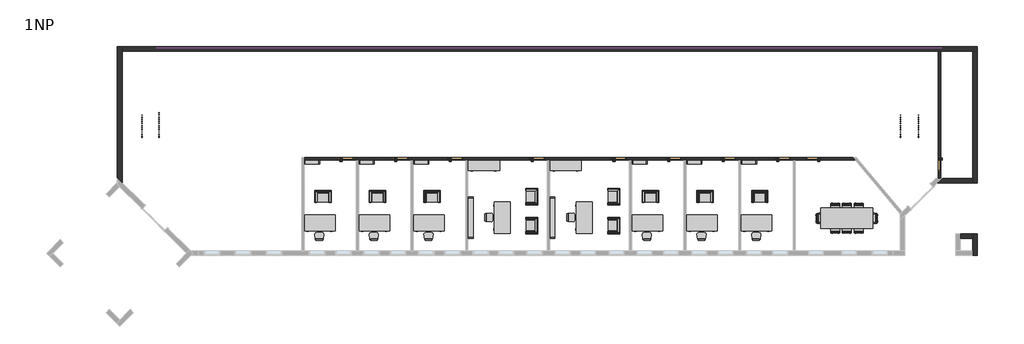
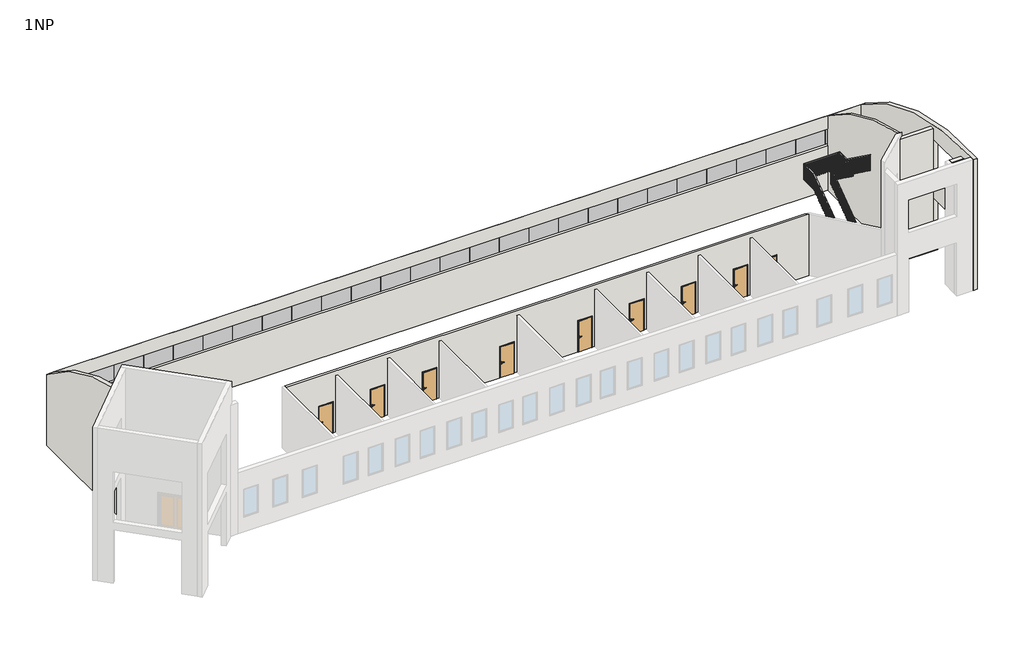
# One storey, part 2 of 2: 45 furniture elements, 26 plates, 10 doors, 7 walls, 4 railings.
"""IFC4 building model written with IfcOpenShell, lengths in millimetres."""

from ifc_helpers import new_model, si_unit, point, frame, frame_2d, origin, place, context, project, spatial, polyline, circle_curve, ellipse_curve, trimmed, segment, composite_curve, outline, extrude, faceted_brep, transform, mapped, element, save
from ifc_brep_helpers import plane_surface, cylinder_surface, advanced_brep
from components import door_900_x_2000_4c66a93d, door_900_x_2000_c64c60ef, furniture_b7f3823b, furniture_3b363349, furniture_ccc35c8f, furniture_2764bdef, furniture_0915_x_0254_x_1830mm_1d5e155e, furniture_1200_x_3050mm_930714f4, furniture_1800_x_900mm_2fcb012d, furniture_1830_x_0610mm_1080a9db, furniture_2440_x_0305_x_2134mm_59c1a9e4, system_panel_glazed_e7f7cd54, system_panel_glazed_2bdfee25, railing_1100mm_7da75a1e, railing_1100mm_276dff7a, railing_1100mm_749a05fc, railing_1100mm_07c990a1

model = new_model("IFC4")

# Units and contexts
model_context = context("Model", 3, world=origin())
ifc_project = project(units=[si_unit("LENGTHUNIT", "METRE", prefix="MILLI")], contexts=[model_context])

# Site, building, storey
site = spatial("IfcSite", under=ifc_project)
building = spatial("IfcBuilding", under=site)
storey = spatial("IfcBuildingStorey", under=building, Name="1NP", Elevation=0.0)

# Doors
placement = place(None, origin())
door_900_x_2000_shape = door_900_x_2000_4c66a93d(model_context)
element("IfcDoor", 1, ObjectType="Jednokridle oboustrana zaruben : 900 x 2000", at=placement, inside=storey, context=model_context, shape_type="MappedRepresentation", body=[
    mapped(door_900_x_2000_shape, transform((36489.1755273, 502.5551306, 0.0), x_axis=(0.0, 1.0, 0.0), y_axis=(-1.0, 0.0, 0.0), z_axis=(0.0, 0.0, 1.0))),
])
element("IfcDoor", 2, ObjectType="Jednokridle oboustrana zaruben : 900 x 2000", at=placement, inside=storey, context=model_context, shape_type="MappedRepresentation", body=[
    mapped(door_900_x_2000_shape, transform((29135.9255273, 791.5551306, 0.0), x_axis=(1.0, 0.0, 0.0), y_axis=(0.0, 1.0, 0.0), z_axis=(0.0, 0.0, 1.0))),
])
door_900_x_2000_2_shape = door_900_x_2000_c64c60ef(model_context)
element("IfcDoor", 3, ObjectType="Jednokridle oboustrana zaruben : 900 x 2000", at=placement, inside=storey, context=model_context, shape_type="MappedRepresentation", body=[
    mapped(door_900_x_2000_2_shape, transform((1699.9255273, 791.5551306, 0.0), x_axis=(-1.0, 0.0, 0.0), y_axis=(0.0, -1.0, 0.0), z_axis=(0.0, 0.0, 1.0))),
])
element("IfcDoor", 4, ObjectType="Jednokridle oboustrana zaruben : 900 x 2000", at=placement, inside=storey, context=model_context, shape_type="MappedRepresentation", body=[
    mapped(door_900_x_2000_2_shape, transform((4899.9255273, 791.5551306, 0.0), x_axis=(-1.0, 0.0, 0.0), y_axis=(0.0, -1.0, 0.0), z_axis=(0.0, 0.0, 1.0))),
])
element("IfcDoor", 5, ObjectType="Jednokridle oboustrana zaruben : 900 x 2000", at=placement, inside=storey, context=model_context, shape_type="MappedRepresentation", body=[
    mapped(door_900_x_2000_2_shape, transform((8099.9255273, 791.5551306, 0.0), x_axis=(-1.0, 0.0, 0.0), y_axis=(0.0, -1.0, 0.0), z_axis=(0.0, 0.0, 1.0))),
])
element("IfcDoor", 6, ObjectType="Jednokridle oboustrana zaruben : 900 x 2000", at=placement, inside=storey, context=model_context, shape_type="MappedRepresentation", body=[
    mapped(door_900_x_2000_2_shape, transform((12899.9255273, 791.5551306, 0.0), x_axis=(-1.0, 0.0, 0.0), y_axis=(0.0, -1.0, 0.0), z_axis=(0.0, 0.0, 1.0))),
])
element("IfcDoor", 7, ObjectType="Jednokridle oboustrana zaruben : 900 x 2000", at=placement, inside=storey, context=model_context, shape_type="MappedRepresentation", body=[
    mapped(door_900_x_2000_2_shape, transform((20899.9255273, 791.5551306, 0.0), x_axis=(-1.0, 0.0, 0.0), y_axis=(0.0, -1.0, 0.0), z_axis=(0.0, 0.0, 1.0))),
])
element("IfcDoor", 8, ObjectType="Jednokridle oboustrana zaruben : 900 x 2000", at=placement, inside=storey, context=model_context, shape_type="MappedRepresentation", body=[
    mapped(door_900_x_2000_2_shape, transform((24099.9255273, 791.5551306, 0.0), x_axis=(-1.0, 0.0, 0.0), y_axis=(0.0, -1.0, 0.0), z_axis=(0.0, 0.0, 1.0))),
])
element("IfcDoor", 9, ObjectType="Jednokridle oboustrana zaruben : 900 x 2000", at=placement, inside=storey, context=model_context, shape_type="MappedRepresentation", body=[
    mapped(door_900_x_2000_2_shape, transform((27299.9255273, 791.5551306, 0.0), x_axis=(-1.0, 0.0, 0.0), y_axis=(0.0, -1.0, 0.0), z_axis=(0.0, 0.0, 1.0))),
])
element("IfcDoor", 10, ObjectType="Jednokridle oboustrana zaruben : 900 x 2000", at=placement, inside=storey, context=model_context, shape_type="MappedRepresentation", body=[
    mapped(door_900_x_2000_2_shape, transform((17699.9255273, 791.5551306, 0.0), x_axis=(-1.0, 0.0, 0.0), y_axis=(0.0, -1.0, 0.0), z_axis=(0.0, 0.0, 1.0))),
])

# Furniture
furniture_shape = furniture_b7f3823b(model_context)
element("IfcFurniture", 11, ObjectType="Prac.zidleH : Prac.zidleHranata", at=placement, inside=storey, context=model_context, shape_type="MappedRepresentation", body=[
    mapped(furniture_shape, transform((31897.6750188, -2087.6223918, 0.0), x_axis=(-1.0, 0.0, 0.0), y_axis=(0.0, -1.0, 0.0), z_axis=(0.0, 0.0, 1.0))),
])
element("IfcFurniture", 12, ObjectType="Prac.zidleH : Prac.zidleHranata", at=placement, inside=storey, context=model_context, shape_type="MappedRepresentation", body=[
    mapped(furniture_shape, transform((31615.6933794, -3325.5141951, 0.0), x_axis=(1.0, 0.0, 0.0), y_axis=(0.0, 1.0, 0.0), z_axis=(0.0, 0.0, 1.0))),
])
element("IfcFurniture", 13, ObjectType="Prac.zidleH : Prac.zidleHranata", at=placement, inside=storey, context=model_context, shape_type="MappedRepresentation", body=[
    mapped(furniture_shape, transform((30527.9250188, -2087.6223918, 0.0), x_axis=(-1.0, 0.0, 0.0), y_axis=(0.0, -1.0, 0.0), z_axis=(0.0, 0.0, 1.0))),
])
element("IfcFurniture", 14, ObjectType="Prac.zidleH : Prac.zidleHranata", at=placement, inside=storey, context=model_context, shape_type="MappedRepresentation", body=[
    mapped(furniture_shape, transform((30245.9433794, -3325.5141951, 0.0), x_axis=(1.0, 0.0, 0.0), y_axis=(0.0, 1.0, 0.0), z_axis=(0.0, 0.0, 1.0))),
])
element("IfcFurniture", 15, ObjectType="Prac.zidleH : Prac.zidleHranata", at=placement, inside=storey, context=model_context, shape_type="MappedRepresentation", body=[
    mapped(furniture_shape, transform((31212.8000188, -2087.6223918, 0.0), x_axis=(-1.0, 0.0, 0.0), y_axis=(0.0, -1.0, 0.0), z_axis=(0.0, 0.0, 1.0))),
])
element("IfcFurniture", 16, ObjectType="Prac.zidleH : Prac.zidleHranata", at=placement, inside=storey, context=model_context, shape_type="MappedRepresentation", body=[
    mapped(furniture_shape, transform((30930.8183794, -3325.5141951, 0.0), x_axis=(1.0, 0.0, 0.0), y_axis=(0.0, 1.0, 0.0), z_axis=(0.0, 0.0, 1.0))),
])
furniture_2_shape = furniture_3b363349(model_context)
element("IfcFurniture", 17, ObjectType="Prac.zidleP : Prac.zidlePodrucky", at=placement, inside=storey, context=model_context, shape_type="MappedRepresentation", body=[
    mapped(furniture_2_shape, transform((32615.6301008, -2847.5591131, 0.0), x_axis=(0.0, 1.0, 0.0), y_axis=(-1.0, 0.0, 0.0), z_axis=(0.0, 0.0, 1.0))),
])
element("IfcFurniture", 18, ObjectType="Prac.zidleP : Prac.zidlePodrucky", at=placement, inside=storey, context=model_context, shape_type="MappedRepresentation", body=[
    mapped(furniture_2_shape, transform((29527.7382975, -2565.5774738, 0.0), x_axis=(0.0, -1.0000000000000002, 0.0), y_axis=(1.0000000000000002, 0.0, 0.0), z_axis=(0.0, 0.0, 1.0))),
])
furniture_3_shape = furniture_ccc35c8f(model_context)
element("IfcFurniture", 19, ObjectType="Prac.zidle : prac.zidleZaobl", at=placement, inside=storey, context=model_context, shape_type="MappedRepresentation", body=[
    mapped(furniture_3_shape, transform((149.9255273, -3938.9177984, 0.0), x_axis=(1.0, 0.0, 0.0), y_axis=(0.0, 1.0, 0.0), z_axis=(0.0, 0.0, 1.0))),
])
element("IfcFurniture", 20, ObjectType="Prac.zidle : prac.zidleZaobl", at=placement, inside=storey, context=model_context, shape_type="MappedRepresentation", body=[
    mapped(furniture_3_shape, transform((3349.9255273, -3938.9177984, 0.0), x_axis=(1.0, 0.0, 0.0), y_axis=(0.0, 1.0, 0.0), z_axis=(0.0, 0.0, 1.0))),
])
element("IfcFurniture", 21, ObjectType="Prac.zidle : prac.zidleZaobl", at=placement, inside=storey, context=model_context, shape_type="MappedRepresentation", body=[
    mapped(furniture_3_shape, transform((6549.9255273, -3938.9177984, 0.0), x_axis=(1.0, 0.0, 0.0), y_axis=(0.0, 1.0, 0.0), z_axis=(0.0, 0.0, 1.0))),
])
element("IfcFurniture", 22, ObjectType="Prac.zidle : prac.zidleZaobl", at=placement, inside=storey, context=model_context, shape_type="MappedRepresentation", body=[
    mapped(furniture_3_shape, transform((9920.3097542, -2661.8601839, 0.0), x_axis=(0.0, -1.0, 0.0), y_axis=(1.0, 0.0, 0.0), z_axis=(0.0, 0.0, 1.0))),
])
element("IfcFurniture", 23, ObjectType="Prac.zidle : prac.zidleZaobl", at=placement, inside=storey, context=model_context, shape_type="MappedRepresentation", body=[
    mapped(furniture_3_shape, transform((19349.9255273, -3938.9177984, 0.0), x_axis=(1.0, 0.0, 0.0), y_axis=(0.0, 1.0, 0.0), z_axis=(0.0, 0.0, 1.0))),
])
element("IfcFurniture", 24, ObjectType="Prac.zidle : prac.zidleZaobl", at=placement, inside=storey, context=model_context, shape_type="MappedRepresentation", body=[
    mapped(furniture_3_shape, transform((22549.9255273, -3938.9177984, 0.0), x_axis=(1.0, 0.0, 0.0), y_axis=(0.0, 1.0, 0.0), z_axis=(0.0, 0.0, 1.0))),
])
element("IfcFurniture", 25, ObjectType="Prac.zidle : prac.zidleZaobl", at=placement, inside=storey, context=model_context, shape_type="MappedRepresentation", body=[
    mapped(furniture_3_shape, transform((25749.9255273, -3938.9177984, 0.0), x_axis=(1.0, 0.0, 0.0), y_axis=(0.0, 1.0, 0.0), z_axis=(0.0, 0.0, 1.0))),
])
element("IfcFurniture", 26, ObjectType="Prac.zidle : prac.zidleZaobl", at=placement, inside=storey, context=model_context, shape_type="MappedRepresentation", body=[
    mapped(furniture_3_shape, transform((14720.3097542, -2661.8601839, 0.0), x_axis=(0.0, -1.0, 0.0), y_axis=(1.0, 0.0, 0.0), z_axis=(0.0, 0.0, 1.0))),
])
furniture_4_shape = furniture_2764bdef(model_context)
element("IfcFurniture", 27, ObjectType="KresilkoCorbusier : KresilkoCorbusier", at=placement, inside=storey, context=model_context, shape_type="MappedRepresentation", body=[
    mapped(furniture_4_shape, transform((2989.3517568, -1887.3719186, 0.0), x_axis=(1.0, 0.0, 0.0), y_axis=(0.0, 1.0, 0.0), z_axis=(0.0, 0.0, 1.0))),
])
element("IfcFurniture", 28, ObjectType="KresilkoCorbusier : KresilkoCorbusier", at=placement, inside=storey, context=model_context, shape_type="MappedRepresentation", body=[
    mapped(furniture_4_shape, transform((-210.6482432, -1887.3719186, 0.0), x_axis=(1.0, 0.0, 0.0), y_axis=(0.0, 1.0, 0.0), z_axis=(0.0, 0.0, 1.0))),
])
element("IfcFurniture", 29, ObjectType="KresilkoCorbusier : KresilkoCorbusier", at=placement, inside=storey, context=model_context, shape_type="MappedRepresentation", body=[
    mapped(furniture_4_shape, transform((6189.3517568, -1887.3719186, 0.0), x_axis=(1.0, 0.0, 0.0), y_axis=(0.0, 1.0, 0.0), z_axis=(0.0, 0.0, 1.0))),
])
element("IfcFurniture", 30, ObjectType="KresilkoCorbusier : KresilkoCorbusier", at=placement, inside=storey, context=model_context, shape_type="MappedRepresentation", body=[
    mapped(furniture_4_shape, transform((12135.7353038, -861.9944392, 0.0), x_axis=(0.0, -1.0, 0.0), y_axis=(1.0, 0.0, 0.0), z_axis=(0.0, 0.0, 1.0))),
])
element("IfcFurniture", 31, ObjectType="KresilkoCorbusier : KresilkoCorbusier", at=placement, inside=storey, context=model_context, shape_type="MappedRepresentation", body=[
    mapped(furniture_4_shape, transform((18989.3517568, -1887.3719186, 0.0), x_axis=(1.0, 0.0, 0.0), y_axis=(0.0, 1.0, 0.0), z_axis=(0.0, 0.0, 1.0))),
])
element("IfcFurniture", 32, ObjectType="KresilkoCorbusier : KresilkoCorbusier", at=placement, inside=storey, context=model_context, shape_type="MappedRepresentation", body=[
    mapped(furniture_4_shape, transform((22189.3517568, -1887.3719186, 0.0), x_axis=(1.0, 0.0, 0.0), y_axis=(0.0, 1.0, 0.0), z_axis=(0.0, 0.0, 1.0))),
])
element("IfcFurniture", 33, ObjectType="KresilkoCorbusier : KresilkoCorbusier", at=placement, inside=storey, context=model_context, shape_type="MappedRepresentation", body=[
    mapped(furniture_4_shape, transform((25389.3517568, -1887.3719186, 0.0), x_axis=(1.0, 0.0, 0.0), y_axis=(0.0, 1.0, 0.0), z_axis=(0.0, 0.0, 1.0))),
])
element("IfcFurniture", 34, ObjectType="KresilkoCorbusier : KresilkoCorbusier", at=placement, inside=storey, context=model_context, shape_type="MappedRepresentation", body=[
    mapped(furniture_4_shape, transform((12135.7353038, -2557.1944392, 0.0), x_axis=(0.0, -1.0, 0.0), y_axis=(1.0, 0.0, 0.0), z_axis=(0.0, 0.0, 1.0))),
])
element("IfcFurniture", 35, ObjectType="KresilkoCorbusier : KresilkoCorbusier", at=placement, inside=storey, context=model_context, shape_type="MappedRepresentation", body=[
    mapped(furniture_4_shape, transform((16935.7353038, -861.9944392, 0.0), x_axis=(0.0, -1.0, 0.0), y_axis=(1.0, 0.0, 0.0), z_axis=(0.0, 0.0, 1.0))),
])
element("IfcFurniture", 36, ObjectType="KresilkoCorbusier : KresilkoCorbusier", at=placement, inside=storey, context=model_context, shape_type="MappedRepresentation", body=[
    mapped(furniture_4_shape, transform((16935.7353038, -2557.1944392, 0.0), x_axis=(0.0, -1.0, 0.0), y_axis=(1.0, 0.0, 0.0), z_axis=(0.0, 0.0, 1.0))),
])
furniture_0915_x_0254_x_1830mm_shape = furniture_0915_x_0254_x_1830mm_1d5e155e(model_context)
element("IfcFurniture", 37, ObjectType="PolicovaSkrin : 0915 x 0254 x 1830mm", at=placement, inside=storey, context=model_context, shape_type="MappedRepresentation", body=[
    mapped(furniture_0915_x_0254_x_1830mm_shape, transform((-284.0744727, 900.1051306, 0.0), x_axis=(1.0, 0.0, 0.0), y_axis=(0.0, 1.0, 0.0), z_axis=(0.0, 0.0, 1.0))),
])
element("IfcFurniture", 38, ObjectType="PolicovaSkrin : 0915 x 0254 x 1830mm", at=placement, inside=storey, context=model_context, shape_type="MappedRepresentation", body=[
    mapped(furniture_0915_x_0254_x_1830mm_shape, transform((2915.9255273, 900.1051306, 0.0), x_axis=(1.0, 0.0, 0.0), y_axis=(0.0, 1.0, 0.0), z_axis=(0.0, 0.0, 1.0))),
])
element("IfcFurniture", 39, ObjectType="PolicovaSkrin : 0915 x 0254 x 1830mm", at=placement, inside=storey, context=model_context, shape_type="MappedRepresentation", body=[
    mapped(furniture_0915_x_0254_x_1830mm_shape, transform((6115.9255273, 900.1051306, 0.0), x_axis=(1.0, 0.0, 0.0), y_axis=(0.0, 1.0, 0.0), z_axis=(0.0, 0.0, 1.0))),
])
element("IfcFurniture", 40, ObjectType="PolicovaSkrin : 0915 x 0254 x 1830mm", at=placement, inside=storey, context=model_context, shape_type="MappedRepresentation", body=[
    mapped(furniture_0915_x_0254_x_1830mm_shape, transform((18915.9255273, 900.1051306, 0.0), x_axis=(1.0, 0.0, 0.0), y_axis=(0.0, 1.0, 0.0), z_axis=(0.0, 0.0, 1.0))),
])
element("IfcFurniture", 41, ObjectType="PolicovaSkrin : 0915 x 0254 x 1830mm", at=placement, inside=storey, context=model_context, shape_type="MappedRepresentation", body=[
    mapped(furniture_0915_x_0254_x_1830mm_shape, transform((22115.9255273, 900.1051306, 0.0), x_axis=(1.0, 0.0, 0.0), y_axis=(0.0, 1.0, 0.0), z_axis=(0.0, 0.0, 1.0))),
])
element("IfcFurniture", 42, ObjectType="PolicovaSkrin : 0915 x 0254 x 1830mm", at=placement, inside=storey, context=model_context, shape_type="MappedRepresentation", body=[
    mapped(furniture_0915_x_0254_x_1830mm_shape, transform((25315.9255273, 900.1051306, 0.0), x_axis=(1.0, 0.0, 0.0), y_axis=(0.0, 1.0, 0.0), z_axis=(0.0, 0.0, 1.0))),
])
furniture_1200_x_3050mm_shape = furniture_1200_x_3050mm_930714f4(model_context)
element("IfcFurniture", 43, ObjectType="Konf.stul : 1200 x 3050mm", at=placement, inside=storey, context=model_context, shape_type="MappedRepresentation", body=[
    mapped(furniture_1200_x_3050mm_shape, transform((31071.6841991, -2706.5682935, 0.0), x_axis=(-1.0, 0.0, 0.0), y_axis=(0.0, -1.0, 0.0), z_axis=(0.0, 0.0, 1.0))),
])
furniture_1800_x_900mm_shape = furniture_1800_x_900mm_2fcb012d(model_context)
element("IfcFurniture", 44, ObjectType="Prac.stul : 1800 x 900mm", at=placement, inside=storey, context=model_context, shape_type="MappedRepresentation", body=[
    mapped(furniture_1800_x_900mm_shape, transform((1058.4255273, -2534.8677984, 0.0), x_axis=(-1.0, 0.0, 0.0), y_axis=(0.0, -1.0, 0.0), z_axis=(0.0, 0.0, 1.0))),
])
element("IfcFurniture", 45, ObjectType="Prac.stul : 1800 x 900mm", at=placement, inside=storey, context=model_context, shape_type="MappedRepresentation", body=[
    mapped(furniture_1800_x_900mm_shape, transform((4258.4255273, -2534.8677984, 0.0), x_axis=(-1.0, 0.0, 0.0), y_axis=(0.0, -1.0, 0.0), z_axis=(0.0, 0.0, 1.0))),
])
element("IfcFurniture", 46, ObjectType="Prac.stul : 1800 x 900mm", at=placement, inside=storey, context=model_context, shape_type="MappedRepresentation", body=[
    mapped(furniture_1800_x_900mm_shape, transform((7458.4255273, -2534.8677984, 0.0), x_axis=(-1.0, 0.0, 0.0), y_axis=(0.0, -1.0, 0.0), z_axis=(0.0, 0.0, 1.0))),
])
element("IfcFurniture", 47, ObjectType="Prac.stul : 1800 x 900mm", at=placement, inside=storey, context=model_context, shape_type="MappedRepresentation", body=[
    mapped(furniture_1800_x_900mm_shape, transform((11324.3597542, -3570.3601839, 0.0), x_axis=(0.0, 1.0, 0.0), y_axis=(-1.0, 0.0, 0.0), z_axis=(0.0, 0.0, 1.0))),
])
element("IfcFurniture", 48, ObjectType="Prac.stul : 1800 x 900mm", at=placement, inside=storey, context=model_context, shape_type="MappedRepresentation", body=[
    mapped(furniture_1800_x_900mm_shape, transform((20258.4255273, -2534.8677984, 0.0), x_axis=(-1.0, 0.0, 0.0), y_axis=(0.0, -1.0, 0.0), z_axis=(0.0, 0.0, 1.0))),
])
element("IfcFurniture", 49, ObjectType="Prac.stul : 1800 x 900mm", at=placement, inside=storey, context=model_context, shape_type="MappedRepresentation", body=[
    mapped(furniture_1800_x_900mm_shape, transform((23458.4255273, -2534.8677984, 0.0), x_axis=(-1.0, 0.0, 0.0), y_axis=(0.0, -1.0, 0.0), z_axis=(0.0, 0.0, 1.0))),
])
element("IfcFurniture", 50, ObjectType="Prac.stul : 1800 x 900mm", at=placement, inside=storey, context=model_context, shape_type="MappedRepresentation", body=[
    mapped(furniture_1800_x_900mm_shape, transform((26658.4255273, -2534.8677984, 0.0), x_axis=(-1.0, 0.0, 0.0), y_axis=(0.0, -1.0, 0.0), z_axis=(0.0, 0.0, 1.0))),
])
element("IfcFurniture", 51, ObjectType="Prac.stul : 1800 x 900mm", at=placement, inside=storey, context=model_context, shape_type="MappedRepresentation", body=[
    mapped(furniture_1800_x_900mm_shape, transform((16124.3597542, -3570.3601839, 0.0), x_axis=(0.0, 1.0, 0.0), y_axis=(-1.0, 0.0, 0.0), z_axis=(0.0, 0.0, 1.0))),
])
furniture_1830_x_0610mm_shape = furniture_1830_x_0610mm_1080a9db(model_context)
element("IfcFurniture", 52, ObjectType="SkrinNizka : 1830 x 0610mm", at=placement, inside=storey, context=model_context, shape_type="MappedRepresentation", body=[
    mapped(furniture_1830_x_0610mm_shape, transform((9713.881265, 412.7248027, 0.0), x_axis=(1.0, 0.0, 0.0), y_axis=(0.0, 1.0, 0.0), z_axis=(0.0, 0.0, 1.0))),
])
element("IfcFurniture", 53, ObjectType="SkrinNizka : 1830 x 0610mm", at=placement, inside=storey, context=model_context, shape_type="MappedRepresentation", body=[
    mapped(furniture_1830_x_0610mm_shape, transform((14513.881265, 412.7248027, 0.0), x_axis=(1.0, 0.0, 0.0), y_axis=(0.0, 1.0, 0.0), z_axis=(0.0, 0.0, 1.0))),
])
furniture_2440_x_0305_x_2134mm_shape = furniture_2440_x_0305_x_2134mm_59c1a9e4(model_context)
element("IfcFurniture", 54, ObjectType="PolicovaSkrin : 2440 x 0305 x 2134mm", at=placement, inside=storey, context=model_context, shape_type="MappedRepresentation", body=[
    mapped(furniture_2440_x_0305_x_2134mm_shape, transform((9315.7255273, -2670.3601839, 0.0), x_axis=(0.0, -1.0, 0.0), y_axis=(1.0, 0.0, 0.0), z_axis=(0.0, 0.0, 1.0))),
])
element("IfcFurniture", 55, ObjectType="PolicovaSkrin : 2440 x 0305 x 2134mm", at=placement, inside=storey, context=model_context, shape_type="MappedRepresentation", body=[
    mapped(furniture_2440_x_0305_x_2134mm_shape, transform((14115.7255273, -2670.3601839, 0.0), x_axis=(0.0, -1.0, 0.0), y_axis=(1.0, 0.0, 0.0), z_axis=(0.0, 0.0, 1.0))),
])

# Plates
system_panel_glazed_shape = system_panel_glazed_e7f7cd54(model_context)
element("IfcPlate", 56, ObjectType="System Panel : Glazed", at=placement, inside=storey, context=model_context, shape_type="MappedRepresentation", body=[
    mapped(system_panel_glazed_shape, transform((-8495.8244727, 7241.5551306, 2916.2475184), x_axis=(1.0, 0.0, 0.0), y_axis=(0.0, 1.0, 0.0), z_axis=(0.0, 0.0, 1.0))),
])
element("IfcPlate", 57, ObjectType="System Panel : Glazed", at=placement, inside=storey, context=model_context, shape_type="MappedRepresentation", body=[
    mapped(system_panel_glazed_shape, transform((-6665.8244727, 7241.5551306, 2916.2475184), x_axis=(1.0, 0.0, 0.0), y_axis=(0.0, 1.0, 0.0), z_axis=(0.0, 0.0, 1.0))),
])
element("IfcPlate", 58, ObjectType="System Panel : Glazed", at=placement, inside=storey, context=model_context, shape_type="MappedRepresentation", body=[
    mapped(system_panel_glazed_shape, transform((-4835.8244727, 7241.5551306, 2916.2475184), x_axis=(1.0, 0.0, 0.0), y_axis=(0.0, 1.0, 0.0), z_axis=(0.0, 0.0, 1.0))),
])
element("IfcPlate", 59, ObjectType="System Panel : Glazed", at=placement, inside=storey, context=model_context, shape_type="MappedRepresentation", body=[
    mapped(system_panel_glazed_shape, transform((-3005.8244727, 7241.5551306, 2916.2475184), x_axis=(1.0, 0.0, 0.0), y_axis=(0.0, 1.0, 0.0), z_axis=(0.0, 0.0, 1.0))),
])
element("IfcPlate", 60, ObjectType="System Panel : Glazed", at=placement, inside=storey, context=model_context, shape_type="MappedRepresentation", body=[
    mapped(system_panel_glazed_shape, transform((-1175.8244727, 7241.5551306, 2916.2475184), x_axis=(1.0, 0.0, 0.0), y_axis=(0.0, 1.0, 0.0), z_axis=(0.0, 0.0, 1.0))),
])
element("IfcPlate", 61, ObjectType="System Panel : Glazed", at=placement, inside=storey, context=model_context, shape_type="MappedRepresentation", body=[
    mapped(system_panel_glazed_shape, transform((654.1755273, 7241.5551306, 2916.2475184), x_axis=(1.0, 0.0, 0.0), y_axis=(0.0, 1.0, 0.0), z_axis=(0.0, 0.0, 1.0))),
])
element("IfcPlate", 62, ObjectType="System Panel : Glazed", at=placement, inside=storey, context=model_context, shape_type="MappedRepresentation", body=[
    mapped(system_panel_glazed_shape, transform((2484.1755273, 7241.5551306, 2916.2475184), x_axis=(1.0, 0.0, 0.0), y_axis=(0.0, 1.0, 0.0), z_axis=(0.0, 0.0, 1.0))),
])
element("IfcPlate", 63, ObjectType="System Panel : Glazed", at=placement, inside=storey, context=model_context, shape_type="MappedRepresentation", body=[
    mapped(system_panel_glazed_shape, transform((4314.1755273, 7241.5551306, 2916.2475184), x_axis=(1.0, 0.0, 0.0), y_axis=(0.0, 1.0, 0.0), z_axis=(0.0, 0.0, 1.0))),
])
element("IfcPlate", 64, ObjectType="System Panel : Glazed", at=placement, inside=storey, context=model_context, shape_type="MappedRepresentation", body=[
    mapped(system_panel_glazed_shape, transform((6144.1755273, 7241.5551306, 2916.2475184), x_axis=(1.0, 0.0, 0.0), y_axis=(0.0, 1.0, 0.0), z_axis=(0.0, 0.0, 1.0))),
])
element("IfcPlate", 65, ObjectType="System Panel : Glazed", at=placement, inside=storey, context=model_context, shape_type="MappedRepresentation", body=[
    mapped(system_panel_glazed_shape, transform((7974.1755273, 7241.5551306, 2916.2475184), x_axis=(1.0, 0.0, 0.0), y_axis=(0.0, 1.0, 0.0), z_axis=(0.0, 0.0, 1.0))),
])
element("IfcPlate", 66, ObjectType="System Panel : Glazed", at=placement, inside=storey, context=model_context, shape_type="MappedRepresentation", body=[
    mapped(system_panel_glazed_shape, transform((9804.1755273, 7241.5551306, 2916.2475184), x_axis=(1.0, 0.0, 0.0), y_axis=(0.0, 1.0, 0.0), z_axis=(0.0, 0.0, 1.0))),
])
element("IfcPlate", 67, ObjectType="System Panel : Glazed", at=placement, inside=storey, context=model_context, shape_type="MappedRepresentation", body=[
    mapped(system_panel_glazed_shape, transform((11634.1755273, 7241.5551306, 2916.2475184), x_axis=(1.0, 0.0, 0.0), y_axis=(0.0, 1.0, 0.0), z_axis=(0.0, 0.0, 1.0))),
])
element("IfcPlate", 68, ObjectType="System Panel : Glazed", at=placement, inside=storey, context=model_context, shape_type="MappedRepresentation", body=[
    mapped(system_panel_glazed_shape, transform((13464.1755273, 7241.5551306, 2916.2475184), x_axis=(1.0, 0.0, 0.0), y_axis=(0.0, 1.0, 0.0), z_axis=(0.0, 0.0, 1.0))),
])
element("IfcPlate", 69, ObjectType="System Panel : Glazed", at=placement, inside=storey, context=model_context, shape_type="MappedRepresentation", body=[
    mapped(system_panel_glazed_shape, transform((15294.1755273, 7241.5551306, 2916.2475184), x_axis=(1.0, 0.0, 0.0), y_axis=(0.0, 1.0, 0.0), z_axis=(0.0, 0.0, 1.0))),
])
element("IfcPlate", 70, ObjectType="System Panel : Glazed", at=placement, inside=storey, context=model_context, shape_type="MappedRepresentation", body=[
    mapped(system_panel_glazed_shape, transform((17124.1755273, 7241.5551306, 2916.2475184), x_axis=(1.0, 0.0, 0.0), y_axis=(0.0, 1.0, 0.0), z_axis=(0.0, 0.0, 1.0))),
])
element("IfcPlate", 71, ObjectType="System Panel : Glazed", at=placement, inside=storey, context=model_context, shape_type="MappedRepresentation", body=[
    mapped(system_panel_glazed_shape, transform((18954.1755273, 7241.5551306, 2916.2475184), x_axis=(1.0, 0.0, 0.0), y_axis=(0.0, 1.0, 0.0), z_axis=(0.0, 0.0, 1.0))),
])
element("IfcPlate", 72, ObjectType="System Panel : Glazed", at=placement, inside=storey, context=model_context, shape_type="MappedRepresentation", body=[
    mapped(system_panel_glazed_shape, transform((20784.1755273, 7241.5551306, 2916.2475184), x_axis=(1.0, 0.0, 0.0), y_axis=(0.0, 1.0, 0.0), z_axis=(0.0, 0.0, 1.0))),
])
element("IfcPlate", 73, ObjectType="System Panel : Glazed", at=placement, inside=storey, context=model_context, shape_type="MappedRepresentation", body=[
    mapped(system_panel_glazed_shape, transform((22614.1755273, 7241.5551306, 2916.2475184), x_axis=(1.0, 0.0, 0.0), y_axis=(0.0, 1.0, 0.0), z_axis=(0.0, 0.0, 1.0))),
])
element("IfcPlate", 74, ObjectType="System Panel : Glazed", at=placement, inside=storey, context=model_context, shape_type="MappedRepresentation", body=[
    mapped(system_panel_glazed_shape, transform((24444.1755273, 7241.5551306, 2916.2475184), x_axis=(1.0, 0.0, 0.0), y_axis=(0.0, 1.0, 0.0), z_axis=(0.0, 0.0, 1.0))),
])
element("IfcPlate", 75, ObjectType="System Panel : Glazed", at=placement, inside=storey, context=model_context, shape_type="MappedRepresentation", body=[
    mapped(system_panel_glazed_shape, transform((26274.1755273, 7241.5551306, 2916.2475184), x_axis=(1.0, 0.0, 0.0), y_axis=(0.0, 1.0, 0.0), z_axis=(0.0, 0.0, 1.0))),
])
element("IfcPlate", 76, ObjectType="System Panel : Glazed", at=placement, inside=storey, context=model_context, shape_type="MappedRepresentation", body=[
    mapped(system_panel_glazed_shape, transform((28104.1755273, 7241.5551306, 2916.2475184), x_axis=(1.0, 0.0, 0.0), y_axis=(0.0, 1.0, 0.0), z_axis=(0.0, 0.0, 1.0))),
])
element("IfcPlate", 77, ObjectType="System Panel : Glazed", at=placement, inside=storey, context=model_context, shape_type="MappedRepresentation", body=[
    mapped(system_panel_glazed_shape, transform((29934.1755273, 7241.5551306, 2916.2475184), x_axis=(1.0, 0.0, 0.0), y_axis=(0.0, 1.0, 0.0), z_axis=(0.0, 0.0, 1.0))),
])
element("IfcPlate", 78, ObjectType="System Panel : Glazed", at=placement, inside=storey, context=model_context, shape_type="MappedRepresentation", body=[
    mapped(system_panel_glazed_shape, transform((31764.1755273, 7241.5551306, 2916.2475184), x_axis=(1.0, 0.0, 0.0), y_axis=(0.0, 1.0, 0.0), z_axis=(0.0, 0.0, 1.0))),
])
element("IfcPlate", 79, ObjectType="System Panel : Glazed", at=placement, inside=storey, context=model_context, shape_type="MappedRepresentation", body=[
    mapped(system_panel_glazed_shape, transform((33594.1755273, 7241.5551306, 2916.2475184), x_axis=(1.0, 0.0, 0.0), y_axis=(0.0, 1.0, 0.0), z_axis=(0.0, 0.0, 1.0))),
])
element("IfcPlate", 80, ObjectType="System Panel : Glazed", at=placement, inside=storey, context=model_context, shape_type="MappedRepresentation", body=[
    mapped(system_panel_glazed_shape, transform((35424.1755273, 7241.5551306, 2916.2475184), x_axis=(1.0, 0.0, 0.0), y_axis=(0.0, 1.0, 0.0), z_axis=(0.0, 0.0, 1.0))),
])
system_panel_glazed_2_shape = system_panel_glazed_2bdfee25(model_context)
element("IfcPlate", 81, ObjectType="System Panel : Glazed", at=placement, inside=storey, context=model_context, shape_type="MappedRepresentation", body=[
    mapped(system_panel_glazed_2_shape, transform((36464.1755273, 7241.5551306, 2916.2475184), x_axis=(1.0, 0.0, 0.0), y_axis=(0.0, 1.0, 0.0), z_axis=(0.0, 0.0, 1.0))),
])

# Railings
railing_1100mm_shape = railing_1100mm_7da75a1e(model_context)
element("IfcRailing", 82, ObjectType="1100mm", at=placement, inside=storey, context=model_context, shape_type="MappedRepresentation", body=[
    mapped(railing_1100mm_shape, transform((0.0, 0.0, 0.0), x_axis=(1.0, 0.0, 0.0), y_axis=(0.0, 1.0, 0.0), z_axis=(0.0, 0.0, 1.0))),
])
railing_1100mm_2_shape = railing_1100mm_276dff7a(model_context)
element("IfcRailing", 83, ObjectType="1100mm", at=placement, inside=storey, context=model_context, shape_type="MappedRepresentation", body=[
    mapped(railing_1100mm_2_shape, transform((0.0, 0.0, 0.0), x_axis=(1.0, 0.0, 0.0), y_axis=(0.0, 1.0, 0.0), z_axis=(0.0, 0.0, 1.0))),
])
railing_1100mm_3_shape = railing_1100mm_749a05fc(model_context)
element("IfcRailing", 84, ObjectType="1100mm", at=placement, inside=storey, context=model_context, shape_type="MappedRepresentation", body=[
    mapped(railing_1100mm_3_shape, transform((0.0, 0.0, 0.0), x_axis=(1.0, 0.0, 0.0), y_axis=(0.0, 1.0, 0.0), z_axis=(0.0, 0.0, 1.0))),
])
railing_1100mm_4_shape = railing_1100mm_07c990a1(model_context)
element("IfcRailing", 85, ObjectType="1100mm", at=placement, inside=storey, context=model_context, shape_type="MappedRepresentation", body=[
    mapped(railing_1100mm_4_shape, transform((0.0, 0.0, 0.0), x_axis=(1.0, 0.0, 0.0), y_axis=(0.0, 1.0, 0.0), z_axis=(0.0, 0.0, 1.0))),
])

# Walls
element("IfcWall", 86, ObjectType="Exterior - EIFS on Mtl. Stud", at=placement, inside=storey, context=model_context, shape_type="AdvancedBrep", body=[
    advanced_brep(
    [(-11410.8244727, 7108.0551306, 0.0), (36419.9255273, 7108.0551306, 0.0), (36558.4255273, 7108.0551306, 0.0), (38455.6755273, 7108.0551306, 0.0), (38722.6755273, 7108.0551306, 0.0), (38722.6755273, 7108.0551306, 4858.4183068), (38455.6755273, 7108.0551306, 4858.4183068), (36558.4255273, 7108.0551306, 4858.4183068), (36419.9255273, 7108.0551306, 4858.4183068), (-11410.8244727, 7108.0551306, 4858.4183068), (-9410.8244727, 7108.0551306, 2916.2475184), (-9410.8244727, 7108.0551306, 4000.0), (36589.1755273, 7108.0551306, 4000.0), (36589.1755273, 7108.0551306, 2916.2475184), (38722.6755273, 7375.0551306, 0.0), (-11410.8244727, 7375.0551306, 0.0), (-11410.8244727, 7375.0551306, 4647.9646014), (38722.6755273, 7375.0551306, 4647.9646014), (-9410.8244727, 7375.0551306, 4000.0), (-9410.8244727, 7375.0551306, 2916.2475184), (36589.1755273, 7375.0551306, 2916.2475184), (36589.1755273, 7375.0551306, 4000.0)],
    [
        (0, 1),
        (1, 2),
        (2, 3),
        (3, 4),
        (4, 5),
        (5, 6),
        (6, 7),
        (7, 8),
        (8, 9),
        (9, 0),
        (10, 11),
        (11, 12),
        (12, 13),
        (13, 10),
        (14, 15),
        (15, 16),
        (16, 17),
        (17, 14),
        (18, 19),
        (19, 20),
        (20, 21),
        (21, 18),
        (0, 15),
        (14, 4),
        (17, 5, circle_curve(frame((38722.6755273, -3782.5530793, -9232.9575956), z_axis=(1.0, 0.0, 0.0), x_axis=(0.0, -1.0, 0.0)), 17809.3296337)),
        (9, 16, circle_curve(frame((-11410.8244727, -3782.5530793, -9232.9575956), z_axis=(-1.0, 0.0, 0.0), x_axis=(0.0, -1.0, 0.0)), 17809.3296337)),
        (10, 19),
        (18, 11),
        (21, 12),
        (20, 13),
    ],
    [
        plane_surface(frame((-5544.3244727, 7108.0551306, 0.0), z_axis=(0.0, -1.0, 0.0), x_axis=(1.0, 0.0, 0.0))),
        plane_surface(frame((-5544.3244727, 7375.0551306, 0.0), z_axis=(0.0, 1.0, 0.0), x_axis=(-1.0, 0.0, 0.0))),
        plane_surface(frame((-11544.3244727, 7108.0551306, 0.0), z_axis=(0.0, 0.0, -1.0), x_axis=(0.0, 1.0, 0.0))),
        plane_surface(frame((38722.6755273, 5741.5551306, 0.0), z_axis=(1.0, 0.0, 0.0), x_axis=(0.0, 1.0, 0.0))),
        plane_surface(frame((-11410.8244727, -6258.4448694, 0.0), z_axis=(-1.0, 0.0, 0.0), x_axis=(0.0, 1.0, 0.0))),
        cylinder_surface(frame((39922.6755273, -3782.5530793, -9232.9575956), z_axis=(1.0, 0.0, 0.0), x_axis=(0.0, -1.0, 0.0)), 17809.3296337),
        plane_surface(frame((-9410.8244727, 7527.4551306, 2916.2475184), z_axis=(1.0, 0.0, 0.0), x_axis=(0.0, -1.0, 0.0))),
        plane_surface(frame((-9410.8244727, 7527.4551306, 4000.0), z_axis=(0.0, 0.0, -1.0), x_axis=(0.0, -1.0, 0.0))),
        plane_surface(frame((36589.1755273, 7527.4551306, 4000.0), z_axis=(-1.0, 0.0, 0.0), x_axis=(0.0, -1.0, 0.0))),
        plane_surface(frame((36589.1755273, 7527.4551306, 2916.2475184), z_axis=(0.0, 0.0, 1.0), x_axis=(0.0, -1.0, 0.0))),
    ],
    [
        (0, [[1, 2, 3, 4, 5, 6, 7, 8, 9, 10], [11, 12, 13, 14]]),
        (1, [[15, 16, 17, 18], [19, 20, 21, 22]]),
        (2, [[-4, -3, -2, -1, 23, -15, 24]]),
        (3, [[-5, -24, -18, 25]]),
        (4, [[-10, 26, -16, -23]]),
        (5, [[-9, -8, -7, -6, -25, -17, -26]]),
        (6, [[27, -19, 28, -11]]),
        (7, [[-28, -22, 29, -12]]),
        (8, [[-29, -21, 30, -13]]),
        (9, [[-27, -14, -30, -20]]),
    ],
),
])
element("IfcWall", 87, ObjectType="Exterior - EIFS on Mtl. Stud", at=placement, inside=storey, context=model_context, shape_type="AdvancedBrep", body=[
    advanced_brep(
    [(38455.6755273, 7108.0551306, 0.0), (38455.6755273, -374.9448694, 0.0), (38455.6755273, -641.9448694, 0.0), (38455.6755273, -641.9448694, 3500.0), (38455.6755273, -3624.9448694, 3500.0), (38455.6755273, -3624.9448694, 0.0), (38455.6755273, -3891.9448694, 0.0), (38455.6755273, -4624.9448694, 0.0), (38455.6755273, -4891.9448694, 0.0), (38455.6755273, -4891.9448694, 8541.7849302), (38455.6755273, -4624.9249558, 8556.4388364), (38455.6755273, 7108.0551306, 4858.4183068), (38455.6755273, -641.9448694, 5200.0), (38455.6755273, -641.9448694, 7300.0), (38455.6755273, -3624.9448694, 7300.0), (38455.6755273, -3624.9448694, 5200.0), (38722.6755273, 7108.0551306, 0.0), (38722.6755273, 7108.0551306, 4858.4183068), (38722.6755273, -4891.9448694, 8541.7849302), (38722.6755273, -4891.9448694, 0.0), (38722.6755273, -3624.9448694, 0.0), (38722.6755273, -3624.9448694, 3500.0), (38722.6755273, -641.9448694, 3500.0), (38722.6755273, -641.9448694, 0.0), (38722.6755273, -641.9448694, 5200.0), (38722.6755273, -3624.9448694, 5200.0), (38722.6755273, -3624.9448694, 7300.0), (38722.6755273, -641.9448694, 7300.0)],
    [
        (0, 1),
        (1, 2),
        (2, 3),
        (3, 4),
        (4, 5),
        (5, 6),
        (6, 7),
        (7, 8),
        (8, 9),
        (9, 10, circle_curve(frame((38455.6755273, -3782.5530793, -9232.9575956), z_axis=(-1.0, 0.0, 0.0), x_axis=(0.0, -1.0, 0.0)), 17809.3296337)),
        (10, 11, circle_curve(frame((38455.6755273, -3782.5530793, -9232.9575956), z_axis=(-1.0, 0.0, 0.0), x_axis=(0.0, -1.0, 0.0)), 17809.3294594)),
        (11, 0),
        (12, 13),
        (13, 14),
        (14, 15),
        (15, 12),
        (16, 17),
        (17, 18, circle_curve(frame((38722.6755273, -3782.5530793, -9232.9575956), z_axis=(1.0, 0.0, 0.0), x_axis=(0.0, -1.0, 0.0)), 17809.3296337)),
        (18, 19),
        (19, 20),
        (20, 21),
        (21, 22),
        (22, 23),
        (23, 16),
        (24, 25),
        (25, 26),
        (26, 27),
        (27, 24),
        (0, 16),
        (23, 2),
        (3, 22),
        (21, 4),
        (5, 20),
        (19, 8),
        (13, 27),
        (26, 14),
        (15, 25),
        (24, 12),
        (18, 9),
        (11, 17),
    ],
    [
        plane_surface(frame((38455.6755273, 5741.5551306, 0.0), z_axis=(-1.0, 0.0, 0.0), x_axis=(0.0, -1.0, 0.0))),
        plane_surface(frame((38722.6755273, 5741.5551306, 0.0), z_axis=(1.0, 0.0, 0.0), x_axis=(0.0, 1.0, 0.0))),
        plane_surface(frame((38455.6755273, 7241.5551306, 0.0), z_axis=(0.0, 0.0, -1.0), x_axis=(1.0, 0.0, 0.0))),
        plane_surface(frame((38455.6755273, -508.4448694, 3500.0), z_axis=(0.0, 0.0, -1.0), x_axis=(1.0, 0.0, 0.0))),
        plane_surface(frame((38455.6755273, -3758.4448694, 0.0), z_axis=(0.0, 0.0, -1.0), x_axis=(1.0, 0.0, 0.0))),
        plane_surface(frame((38455.6755273, -508.4448694, 7300.0), z_axis=(0.0, 0.0, -1.0), x_axis=(1.0, 0.0, 0.0))),
        plane_surface(frame((38455.6755273, -3758.4448694, 5200.0), z_axis=(0.0, 0.0, 1.0), x_axis=(1.0, 0.0, 0.0))),
        plane_surface(frame((12455.6755273, -4891.9448694, 0.0), z_axis=(0.0, -1.0, 0.0), x_axis=(1.0, 0.0, 0.0))),
        plane_surface(frame((-5544.3244727, 7108.0551306, 0.0), z_axis=(0.0, 1.0, 0.0), x_axis=(1.0, 0.0, 0.0))),
        plane_surface(frame((38455.6755273, -641.9448694, 0.0), z_axis=(0.0, -1.0, 0.0), x_axis=(1.0, 0.0, 0.0))),
        plane_surface(frame((37555.6755273, -3624.9448694, 0.0), z_axis=(0.0, 1.0, 0.0), x_axis=(-1.0, 0.0, 0.0))),
        cylinder_surface(frame((39922.6755273, -3782.5530793, -9232.9575956), z_axis=(1.0, 0.0, 0.0), x_axis=(0.0, -1.0, 0.0)), 17809.3296337),
    ],
    [
        (0, [[1, 2, 3, 4, 5, 6, 7, 8, 9, 10, 11, 12], [13, 14, 15, 16]]),
        (1, [[17, 18, 19, 20, 21, 22, 23, 24], [25, 26, 27, 28]]),
        (2, [[-2, -1, 29, -24, 30]]),
        (3, [[-4, 31, -22, 32]]),
        (4, [[-8, -7, -6, 33, -20, 34]]),
        (5, [[-14, 35, -27, 36]]),
        (6, [[-16, 37, -25, 38]]),
        (7, [[-9, -34, -19, 39]]),
        (8, [[-12, 40, -17, -29]]),
        (9, [[-3, -30, -23, -31]]),
        (9, [[-13, -38, -28, -35]]),
        (10, [[-5, -32, -21, -33]]),
        (10, [[-15, -36, -26, -37]]),
        (11, [[-11, -10, -39, -18, -40]]),
    ],
),
])
element("IfcWall", 88, ObjectType="Exterior - EIFS on Mtl. Stud", at=placement, inside=storey, context=model_context, shape_type="AdvancedBrep", body=[
    advanced_brep(
    [(-11410.8244727, -601.928028, 0.0), (-11410.8244727, 7108.0551306, 0.0), (-11410.8244727, 7375.0551306, 0.0), (-11410.8244727, 7375.0551306, 4647.9646014), (-11410.8244727, 7108.0445023, 4858.4264309), (-11410.8244727, -601.928028, 8290.0514578), (-11677.8244727, -334.928028, 0.0), (-11677.8244727, -334.928028, 8239.4808006), (-11677.8244727, 7375.0551306, 4647.9646014), (-11677.8244727, 7375.0551306, 0.0)],
    [
        (0, 1),
        (1, 2),
        (2, 3),
        (3, 4, circle_curve(frame((-11410.8244727, -3782.5530793, -9232.9575956), z_axis=(1.0, 0.0, 0.0), x_axis=(0.0, -1.0, 0.0)), 17809.3296337)),
        (4, 5, circle_curve(frame((-11410.8244727, -3782.5530793, -9232.9575956), z_axis=(1.0, 0.0, 0.0), x_axis=(0.0, -1.0, 0.0)), 17809.3295625)),
        (5, 0),
        (6, 7),
        (7, 8, circle_curve(frame((-11677.8244727, -3782.5530793, -9232.9575956), z_axis=(-1.0, 0.0, 0.0), x_axis=(0.0, -1.0, 0.0)), 17809.3296337)),
        (8, 9),
        (9, 6),
        (0, 6),
        (9, 2),
        (8, 3),
        (5, 7, ellipse_curve(frame((-8230.1994214, -3782.5530793, -9232.9575956), z_axis=(-0.7071067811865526, -0.7071067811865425, 0.0), x_axis=(0.7071067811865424, -0.7071067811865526, 0.0)), 25186.1955048, 17809.3296337)),
    ],
    [
        plane_surface(frame((-11410.8244727, -6258.4448694, 0.0), z_axis=(1.0, 0.0, 0.0), x_axis=(0.0, 1.0, 0.0))),
        plane_surface(frame((-11677.8244727, -6258.4448694, 0.0), z_axis=(-1.0, 0.0, 0.0), x_axis=(0.0, -1.0, 0.0))),
        plane_surface(frame((-11410.8244727, -657.2255385, 0.0), z_axis=(0.0, 0.0, -1.0), x_axis=(-1.0, 0.0, 0.0))),
        plane_surface(frame((-5544.3244727, 7375.0551306, 0.0), z_axis=(0.0, 1.0, 0.0), x_axis=(-1.0, 0.0, 0.0))),
        plane_surface(frame((-12510.5858892, 497.8333885, 0.0), z_axis=(-0.7071067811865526, -0.7071067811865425, 0.0), x_axis=(-0.7071067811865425, 0.7071067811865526, 0.0))),
        cylinder_surface(frame((39922.6755273, -3782.5530793, -9232.9575956), z_axis=(1.0, 0.0, 0.0), x_axis=(0.0, -1.0, 0.0)), 17809.3296337),
    ],
    [
        (0, [[1, 2, 3, 4, 5, 6]]),
        (1, [[7, 8, 9, 10]]),
        (2, [[-2, -1, 11, -10, 12]]),
        (3, [[-3, -12, -9, 13]]),
        (4, [[-6, 14, -7, -11]]),
        (5, [[-5, -4, -13, -8, -14]]),
    ],
),
])
element("IfcWall", 89, ObjectType="Exterior - EIFS on Mtl. Stud", at=placement, inside=storey, context=model_context, shape_type="Brep", body=[
    faceted_brep([(37722.6755273, -3891.9448694, 0.0), (38455.6755273, -3891.9448694, 0.0), (38455.6755273, -3891.9448694, 8000.0), (37722.6755273, -3891.9448694, 8000.0), (37722.6755273, -3624.9448694, 0.0), (37722.6755273, -3624.9448694, 8000.0), (38455.6755273, -3624.9448694, 8000.0), (38455.6755273, -3624.9448694, 7300.0), (38455.6755273, -3624.9448694, 5200.0), (38455.6755273, -3624.9448694, 3500.0), (38455.6755273, -3624.9448694, 0.0)], [[[0, 1, 2, 3]], [[4, 5, 6, 7, 8, 9, 10]], [[1, 0, 4, 10]], [[3, 2, 6, 5]], [[0, 3, 5, 4]], [[1, 10, 9, 8, 7, 6, 2]]]),
])
element("IfcWall", 90, ObjectType="Exterior - EIFS on Mtl. Stud", at=placement, inside=storey, context=model_context, shape_type="Brep", body=[
    faceted_brep([(38455.6755273, -374.9448694, 8000.0), (38455.6755273, -374.9448694, 0.0), (36648.1692947, -374.9448694, 0.0), (36648.1692947, -374.9448694, 8000.0), (38455.6755273, -641.9448694, 0.0), (38455.6755273, -641.9448694, 3500.0), (38455.6755273, -641.9448694, 5200.0), (38455.6755273, -641.9448694, 7300.0), (38455.6755273, -641.9448694, 8000.0), (36381.1692947, -641.9448694, 8000.0), (36381.1692947, -641.9448694, 0.0)], [[[0, 1, 2, 3]], [[4, 5, 6, 7, 8, 9, 10]], [[2, 1, 4, 10]], [[0, 3, 9, 8]], [[3, 2, 10, 9]], [[0, 8, 7, 6, 5, 4, 1]]]),
])
element("IfcWall", 91, ObjectType="Interior - 138mm Partition (1-hr)", at=placement, inside=storey, context=model_context, shape_type="SweptSolid", body=[
    extrude(outline(composite_curve([segment(polyline([(7108.0551306, 0.0), (932.5551306, 0.0), (932.5551306, 2050.0), (32.5551306, 2050.0), (32.5551306, 0.0), (-374.9448694, 0.0), (-374.9448694, 8247.3292525)]), True, "CONTINUOUS"), segment(trimmed(circle_curve(frame_2d((-3782.5530793, -9232.9575956)), 17809.3296337), [point((-374.9448694, 8247.3292525))], [point((7108.0551306, 4858.4183068))], False, "CARTESIAN"), True, "CONTINUOUS"), segment(polyline([(7108.0551306, 4858.4183068), (7108.0551306, 0.0)]), True, "CONTINUOUS")], self_intersect=False)), frame((36419.9255273, 0.0, 0.0), z_axis=(1.0, 0.0, 0.0), x_axis=(0.0, 1.0, 0.0)), (0.0, 0.0, 1.0), 138.5),
])
element("IfcWall", 92, ObjectType="Interior - 138mm Partition (1-hr)", at=placement, inside=storey, context=model_context, shape_type="Brep", body=[
    faceted_brep([(17269.9255273, 860.8051306, 2050.0), (17269.9255273, 860.8051306, 0.0), (13369.9255273, 860.8051306, 0.0), (13369.9255273, 860.8051306, 2050.0), (12469.9255273, 860.8051306, 2050.0), (12469.9255273, 860.8051306, 0.0), (8569.9255273, 860.8051306, 0.0), (8569.9255273, 860.8051306, 2050.0), (7669.9255273, 860.8051306, 2050.0), (7669.9255273, 860.8051306, 0.0), (5369.9255273, 860.8051306, 0.0), (5369.9255273, 860.8051306, 2050.0), (4469.9255273, 860.8051306, 2050.0), (4469.9255273, 860.8051306, 0.0), (2169.9255273, 860.8051306, 0.0), (2169.9255273, 860.8051306, 2050.0), (1269.9255273, 860.8051306, 2050.0), (1269.9255273, 860.8051306, 0.0), (-741.5744727, 860.8051306, 0.0), (-741.5744727, 860.8051306, 4000.0), (31432.8028061, 860.8051306, 4000.0), (31432.8028061, 860.8051306, 0.0), (29565.9255273, 860.8051306, 0.0), (29565.9255273, 860.8051306, 2050.0), (28665.9255273, 860.8051306, 2050.0), (28665.9255273, 860.8051306, 0.0), (27769.9255273, 860.8051306, 0.0), (27769.9255273, 860.8051306, 2050.0), (26869.9255273, 860.8051306, 2050.0), (26869.9255273, 860.8051306, 0.0), (24569.9255273, 860.8051306, 0.0), (24569.9255273, 860.8051306, 2050.0), (23669.9255273, 860.8051306, 2050.0), (23669.9255273, 860.8051306, 0.0), (21369.9255273, 860.8051306, 0.0), (21369.9255273, 860.8051306, 2050.0), (20469.9255273, 860.8051306, 2050.0), (20469.9255273, 860.8051306, 0.0), (18169.9255273, 860.8051306, 0.0), (18169.9255273, 860.8051306, 2050.0), (13369.9255273, 722.3051306, 0.0), (13519.9255273, 722.3051306, 0.0), (13658.4255273, 722.3051306, 0.0), (17269.9255273, 722.3051306, 0.0), (17269.9255273, 722.3051306, 2050.0), (18169.9255273, 722.3051306, 2050.0), (18169.9255273, 722.3051306, 0.0), (18319.9255273, 722.3051306, 0.0), (18458.4255273, 722.3051306, 0.0), (20469.9255273, 722.3051306, 0.0), (20469.9255273, 722.3051306, 2050.0), (21369.9255273, 722.3051306, 2050.0), (21369.9255273, 722.3051306, 0.0), (21519.9255273, 722.3051306, 0.0), (21658.4255273, 722.3051306, 0.0), (23669.9255273, 722.3051306, 0.0), (23669.9255273, 722.3051306, 2050.0), (24569.9255273, 722.3051306, 2050.0), (24569.9255273, 722.3051306, 0.0), (24719.9255273, 722.3051306, 0.0), (24858.4255273, 722.3051306, 0.0), (26869.9255273, 722.3051306, 0.0), (26869.9255273, 722.3051306, 2050.0), (27769.9255273, 722.3051306, 2050.0), (27769.9255273, 722.3051306, 0.0), (27919.9255273, 722.3051306, 0.0), (28058.4255273, 722.3051306, 0.0), (28665.9255273, 722.3051306, 0.0), (28665.9255273, 722.3051306, 2050.0), (29565.9255273, 722.3051306, 2050.0), (29565.9255273, 722.3051306, 0.0), (31549.018105, 722.3051306, 0.0), (31549.018105, 722.3051306, 4000.0), (-741.5744727, 722.3051306, 4000.0), (-741.5744727, 722.3051306, 0.0), (1269.9255273, 722.3051306, 0.0), (1269.9255273, 722.3051306, 2050.0), (2169.9255273, 722.3051306, 2050.0), (2169.9255273, 722.3051306, 0.0), (2319.9255273, 722.3051306, 0.0), (2458.4255273, 722.3051306, 0.0), (4469.9255273, 722.3051306, 0.0), (4469.9255273, 722.3051306, 2050.0), (5369.9255273, 722.3051306, 2050.0), (5369.9255273, 722.3051306, 0.0), (5519.9255273, 722.3051306, 0.0), (5658.4255273, 722.3051306, 0.0), (7669.9255273, 722.3051306, 0.0), (7669.9255273, 722.3051306, 2050.0), (8569.9255273, 722.3051306, 2050.0), (8569.9255273, 722.3051306, 0.0), (8719.9255273, 722.3051306, 0.0), (8858.4255273, 722.3051306, 0.0), (12469.9255273, 722.3051306, 0.0), (12469.9255273, 722.3051306, 2050.0), (13369.9255273, 722.3051306, 2050.0)], [[[0, 1, 2, 3, 4, 5, 6, 7, 8, 9, 10, 11, 12, 13, 14, 15, 16, 17, 18, 19, 20, 21, 22, 23, 24, 25, 26, 27, 28, 29, 30, 31, 32, 33, 34, 35, 36, 37, 38, 39]], [[40, 41, 42, 43, 44, 45, 46, 47, 48, 49, 50, 51, 52, 53, 54, 55, 56, 57, 58, 59, 60, 61, 62, 63, 64, 65, 66, 67, 68, 69, 70, 71, 72, 73, 74, 75, 76, 77, 78, 79, 80, 81, 82, 83, 84, 85, 86, 87, 88, 89, 90, 91, 92, 93, 94, 95]], [[71, 70, 22, 21]], [[18, 17, 75, 74]], [[10, 9, 87, 86, 85, 84]], [[14, 13, 81, 80, 79, 78]], [[6, 5, 93, 92, 91, 90]], [[2, 1, 43, 42, 41, 40]], [[34, 33, 55, 54, 53, 52]], [[30, 29, 61, 60, 59, 58]], [[26, 25, 67, 66, 65, 64]], [[38, 37, 49, 48, 47, 46]], [[20, 19, 73, 72]], [[21, 20, 72, 71]], [[19, 18, 74, 73]], [[23, 22, 70, 69]], [[24, 23, 69, 68]], [[25, 24, 68, 67]], [[82, 81, 13, 12]], [[83, 82, 12, 11]], [[84, 83, 11, 10]], [[76, 75, 17, 16]], [[77, 76, 16, 15]], [[78, 77, 15, 14]], [[88, 87, 9, 8]], [[89, 88, 8, 7]], [[90, 89, 7, 6]], [[94, 93, 5, 4]], [[95, 94, 4, 3]], [[40, 95, 3, 2]], [[50, 49, 37, 36]], [[51, 50, 36, 35]], [[52, 51, 35, 34]], [[56, 55, 33, 32]], [[57, 56, 32, 31]], [[58, 57, 31, 30]], [[62, 61, 29, 28]], [[63, 62, 28, 27]], [[64, 63, 27, 26]], [[44, 43, 1, 0]], [[45, 44, 0, 39]], [[46, 45, 39, 38]]]),
])

save(model, "model.ifc")
